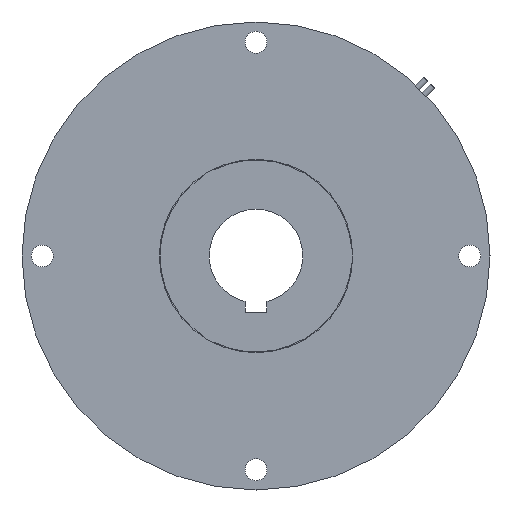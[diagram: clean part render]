
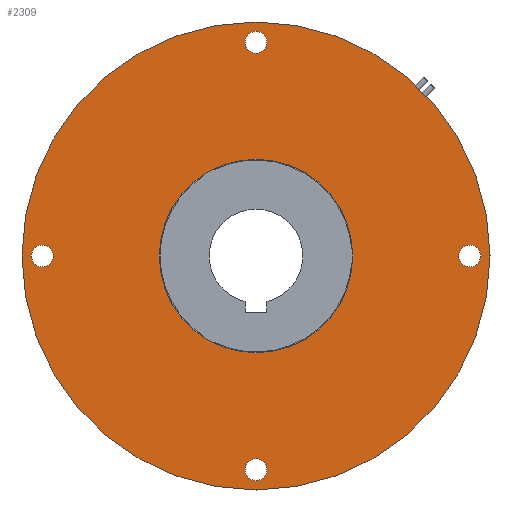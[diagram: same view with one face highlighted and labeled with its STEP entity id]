
A CAD part, front view. The second image highlights one B-rep face of the part: STEP entity #2309.
In plain terms, the highlighted planar face has unit normal (0, -1, 0).
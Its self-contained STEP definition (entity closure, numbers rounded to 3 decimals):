
#23 = EDGE_LOOP ( 'NONE', ( #6100, #5859 ) ) ;
#50 = EDGE_CURVE ( 'NONE', #2915, #120, #1250, .T. ) ;
#75 = DIRECTION ( 'NONE',  ( 0., 1., 0. ) ) ;
#120 = VERTEX_POINT ( 'NONE', #6205 ) ;
#261 = CIRCLE ( 'NONE', #1957, 75. ) ;
#282 = EDGE_CURVE ( 'NONE', #4012, #1568, #5598, .T. ) ;
#308 = CARTESIAN_POINT ( 'NONE',  ( -68.5, 0., 0. ) ) ;
#352 = DIRECTION ( 'NONE',  ( 0., 1., 0. ) ) ;
#574 = DIRECTION ( 'NONE',  ( 0., 1., 0. ) ) ;
#581 = AXIS2_PLACEMENT_3D ( 'NONE', #3999, #2983, #1939 ) ;
#583 = EDGE_CURVE ( 'NONE', #4125, #5477, #6259, .T. ) ;
#596 = VERTEX_POINT ( 'NONE', #4578 ) ;
#612 = CARTESIAN_POINT ( 'NONE',  ( 0., 0., 31. ) ) ;
#620 = CARTESIAN_POINT ( 'NONE',  ( 68.5, 0., 0. ) ) ;
#729 = AXIS2_PLACEMENT_3D ( 'NONE', #620, #3160, #4422 ) ;
#782 = DIRECTION ( 'NONE',  ( 0., 0., 1. ) ) ;
#798 = CIRCLE ( 'NONE', #5985, 3.5 ) ;
#928 = CARTESIAN_POINT ( 'NONE',  ( 0., 0., -65. ) ) ;
#992 = EDGE_CURVE ( 'NONE', #4392, #3108, #1474, .T. ) ;
#1011 = DIRECTION ( 'NONE',  ( 0., 0., 1. ) ) ;
#1075 = FACE_BOUND ( 'NONE', #5964, .T. ) ;
#1085 = AXIS2_PLACEMENT_3D ( 'NONE', #4168, #1499, #3605 ) ;
#1094 = CARTESIAN_POINT ( 'NONE',  ( 0., 0., -75. ) ) ;
#1248 = DIRECTION ( 'NONE',  ( 0., 0., 1. ) ) ;
#1250 = CIRCLE ( 'NONE', #1085, 3.5 ) ;
#1265 = AXIS2_PLACEMENT_3D ( 'NONE', #308, #352, #3945 ) ;
#1274 = CARTESIAN_POINT ( 'NONE',  ( 68.5, 0., 0. ) ) ;
#1312 = EDGE_LOOP ( 'NONE', ( #3135, #3041 ) ) ;
#1388 = DIRECTION ( 'NONE',  ( 0., 1., 0. ) ) ;
#1423 = CARTESIAN_POINT ( 'NONE',  ( 0., 0., -31. ) ) ;
#1457 = EDGE_CURVE ( 'NONE', #4574, #2517, #261, .T. ) ;
#1474 = CIRCLE ( 'NONE', #729, 3.5 ) ;
#1499 = DIRECTION ( 'NONE',  ( 0., 1., 0. ) ) ;
#1568 = VERTEX_POINT ( 'NONE', #612 ) ;
#1572 = EDGE_CURVE ( 'NONE', #3108, #4392, #3762, .T. ) ;
#1781 = DIRECTION ( 'NONE',  ( 0., 1., 0. ) ) ;
#1939 = DIRECTION ( 'NONE',  ( 0., 0., 1. ) ) ;
#1957 = AXIS2_PLACEMENT_3D ( 'NONE', #3650, #75, #4251 ) ;
#2086 = ORIENTED_EDGE ( 'NONE', *, *, #583, .T. ) ;
#2120 = DIRECTION ( 'NONE',  ( 0., 0., 1. ) ) ;
#2258 = ORIENTED_EDGE ( 'NONE', *, *, #282, .T. ) ;
#2309 = ADVANCED_FACE ( 'NONE', ( #2520, #5143, #3591, #4836, #2440, #1075 ), #4889, .F. ) ;
#2380 = DIRECTION ( 'NONE',  ( 0., 0., 1. ) ) ;
#2440 = FACE_OUTER_BOUND ( 'NONE', #5214, .T. ) ;
#2507 = DIRECTION ( 'NONE',  ( 0., 1., 0. ) ) ;
#2517 = VERTEX_POINT ( 'NONE', #1094 ) ;
#2520 = FACE_BOUND ( 'NONE', #23, .T. ) ;
#2781 = DIRECTION ( 'NONE',  ( 0., 1., 0. ) ) ;
#2828 = AXIS2_PLACEMENT_3D ( 'NONE', #3698, #574, #5825 ) ;
#2915 = VERTEX_POINT ( 'NONE', #928 ) ;
#2983 = DIRECTION ( 'NONE',  ( 0., 1., 0. ) ) ;
#3004 = CIRCLE ( 'NONE', #2828, 75. ) ;
#3041 = ORIENTED_EDGE ( 'NONE', *, *, #1572, .T. ) ;
#3108 = VERTEX_POINT ( 'NONE', #5147 ) ;
#3135 = ORIENTED_EDGE ( 'NONE', *, *, #992, .T. ) ;
#3137 = DIRECTION ( 'NONE',  ( 0., 1., 0. ) ) ;
#3160 = DIRECTION ( 'NONE',  ( 0., 1., 0. ) ) ;
#3190 = CARTESIAN_POINT ( 'NONE',  ( 0., 0., 75. ) ) ;
#3207 = EDGE_CURVE ( 'NONE', #2517, #4574, #3004, .T. ) ;
#3591 = FACE_BOUND ( 'NONE', #4252, .T. ) ;
#3605 = DIRECTION ( 'NONE',  ( 0., 0., 1. ) ) ;
#3611 = CARTESIAN_POINT ( 'NONE',  ( -68.5, 0., 3.5 ) ) ;
#3650 = CARTESIAN_POINT ( 'NONE',  ( 0., 0., 0. ) ) ;
#3687 = AXIS2_PLACEMENT_3D ( 'NONE', #6497, #2781, #1248 ) ;
#3698 = CARTESIAN_POINT ( 'NONE',  ( 0., 0., 0. ) ) ;
#3762 = CIRCLE ( 'NONE', #4293, 3.5 ) ;
#3790 = CIRCLE ( 'NONE', #5947, 31. ) ;
#3857 = DIRECTION ( 'NONE',  ( 0., 1., 0. ) ) ;
#3945 = DIRECTION ( 'NONE',  ( 0., 0., 1. ) ) ;
#3999 = CARTESIAN_POINT ( 'NONE',  ( 0., 0., 68.5 ) ) ;
#4012 = VERTEX_POINT ( 'NONE', #1423 ) ;
#4014 = EDGE_CURVE ( 'NONE', #120, #2915, #5841, .T. ) ;
#4125 = VERTEX_POINT ( 'NONE', #3611 ) ;
#4158 = ORIENTED_EDGE ( 'NONE', *, *, #4014, .T. ) ;
#4168 = CARTESIAN_POINT ( 'NONE',  ( 0., 0., -68.5 ) ) ;
#4171 = ORIENTED_EDGE ( 'NONE', *, *, #50, .T. ) ;
#4245 = EDGE_LOOP ( 'NONE', ( #2086, #6653 ) ) ;
#4251 = DIRECTION ( 'NONE',  ( 0., 0., 1. ) ) ;
#4252 = EDGE_LOOP ( 'NONE', ( #4171, #4158 ) ) ;
#4293 = AXIS2_PLACEMENT_3D ( 'NONE', #1274, #3857, #782 ) ;
#4343 = EDGE_CURVE ( 'NONE', #4758, #596, #4379, .T. ) ;
#4379 = CIRCLE ( 'NONE', #581, 3.5 ) ;
#4392 = VERTEX_POINT ( 'NONE', #4708 ) ;
#4422 = DIRECTION ( 'NONE',  ( 0., 0., 1. ) ) ;
#4460 = CARTESIAN_POINT ( 'NONE',  ( 31., 0., 0. ) ) ;
#4517 = CARTESIAN_POINT ( 'NONE',  ( 0., 0., 68.5 ) ) ;
#4538 = DIRECTION ( 'NONE',  ( 0., 0., 1. ) ) ;
#4574 = VERTEX_POINT ( 'NONE', #3190 ) ;
#4578 = CARTESIAN_POINT ( 'NONE',  ( 0., 0., 65. ) ) ;
#4682 = CARTESIAN_POINT ( 'NONE',  ( 0., 0., 0. ) ) ;
#4708 = CARTESIAN_POINT ( 'NONE',  ( 68.5, 0., 3.5 ) ) ;
#4758 = VERTEX_POINT ( 'NONE', #6627 ) ;
#4796 = CARTESIAN_POINT ( 'NONE',  ( -68.5, 0., 0. ) ) ;
#4834 = ORIENTED_EDGE ( 'NONE', *, *, #5356, .T. ) ;
#4836 = FACE_BOUND ( 'NONE', #1312, .T. ) ;
#4889 = PLANE ( 'NONE',  #5303 ) ;
#5143 = FACE_BOUND ( 'NONE', #4245, .T. ) ;
#5147 = CARTESIAN_POINT ( 'NONE',  ( 68.5, 0., -3.5 ) ) ;
#5188 = EDGE_CURVE ( 'NONE', #596, #4758, #6545, .T. ) ;
#5214 = EDGE_LOOP ( 'NONE', ( #5324, #6499 ) ) ;
#5303 = AXIS2_PLACEMENT_3D ( 'NONE', #4460, #1781, #2380 ) ;
#5324 = ORIENTED_EDGE ( 'NONE', *, *, #1457, .F. ) ;
#5356 = EDGE_CURVE ( 'NONE', #1568, #4012, #3790, .T. ) ;
#5477 = VERTEX_POINT ( 'NONE', #6281 ) ;
#5502 = EDGE_CURVE ( 'NONE', #5477, #4125, #798, .T. ) ;
#5563 = AXIS2_PLACEMENT_3D ( 'NONE', #4517, #1388, #4538 ) ;
#5598 = CIRCLE ( 'NONE', #3687, 31. ) ;
#5700 = DIRECTION ( 'NONE',  ( 0., 0., 1. ) ) ;
#5722 = CARTESIAN_POINT ( 'NONE',  ( 0., 0., -68.5 ) ) ;
#5825 = DIRECTION ( 'NONE',  ( 0., 0., 1. ) ) ;
#5841 = CIRCLE ( 'NONE', #6613, 3.5 ) ;
#5859 = ORIENTED_EDGE ( 'NONE', *, *, #5188, .T. ) ;
#5947 = AXIS2_PLACEMENT_3D ( 'NONE', #4682, #2507, #5700 ) ;
#5964 = EDGE_LOOP ( 'NONE', ( #4834, #2258 ) ) ;
#5985 = AXIS2_PLACEMENT_3D ( 'NONE', #4796, #3137, #2120 ) ;
#6100 = ORIENTED_EDGE ( 'NONE', *, *, #4343, .T. ) ;
#6205 = CARTESIAN_POINT ( 'NONE',  ( 0., 0., -72. ) ) ;
#6259 = CIRCLE ( 'NONE', #1265, 3.5 ) ;
#6281 = CARTESIAN_POINT ( 'NONE',  ( -68.5, 0., -3.5 ) ) ;
#6497 = CARTESIAN_POINT ( 'NONE',  ( 0., 0., 0. ) ) ;
#6499 = ORIENTED_EDGE ( 'NONE', *, *, #3207, .F. ) ;
#6545 = CIRCLE ( 'NONE', #5563, 3.5 ) ;
#6613 = AXIS2_PLACEMENT_3D ( 'NONE', #5722, #6726, #1011 ) ;
#6627 = CARTESIAN_POINT ( 'NONE',  ( 0., 0., 72. ) ) ;
#6653 = ORIENTED_EDGE ( 'NONE', *, *, #5502, .T. ) ;
#6726 = DIRECTION ( 'NONE',  ( 0., 1., 0. ) ) ;
